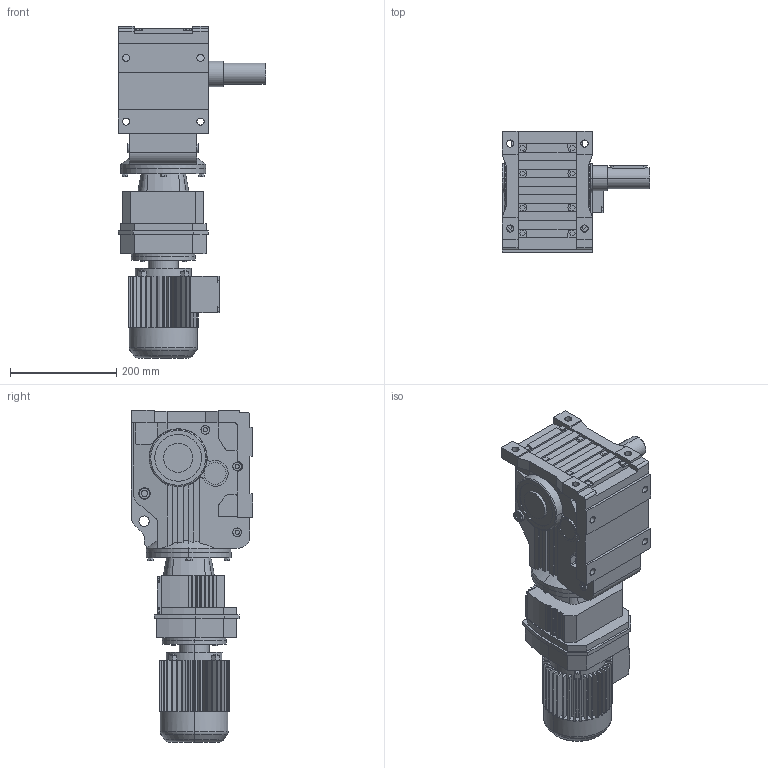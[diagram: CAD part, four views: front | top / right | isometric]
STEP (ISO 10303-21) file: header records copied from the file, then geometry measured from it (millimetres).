
FILE_DESCRIPTION(('Open CASCADE Model'),'2;1');
FILE_NAME('Open CASCADE Shape Model','2021-07-24T16:15:51',('Author'),( 'Open CASCADE'),'Open CASCADE STEP processor 6.3','Open CASCADE 6.3' ,'Unknown');
FILE_SCHEMA(('AUTOMOTIVE_DESIGN_CC2 { 1 2 10303 214 -1 1 5 4 }'));
Length unit declared in the file: millimetre
Products named in the file (5): 1_K67R37DR63-A; K37‵157_67.step; 萇儂_120-DR63-191-246-132-105.step; R_67_37.step; す瑩妗陑粣K_67.step
Assembly tree (4 placements, depth 2):
  1_K67R37DR63-A
    K37‵157_67.step
    萇儂_120-DR63-191-246-132-105.step
    R_67_37.step
    す瑩妗陑粣K_67.step
Bounding box: 278 x 228 x 625 mm (x, y, z)
Volume: 12632627.7 mm3; surface area: 755462.4 mm2
Topology: 4 solids, 4 shells, 1083 faces, 2872 edges, 1874 vertices
Faces by surface type: plane 772, cylinder 279, cone 24, torus 8
Entity records: 74257 total; most frequent: CARTESIAN_POINT 19266, DIRECTION 9559, ORIENTED_EDGE 5740, PCURVE 5740, DEFINITIONAL_REPRESENTATION 5740, LINE 5477, VECTOR 5477, EDGE_CURVE 2870
